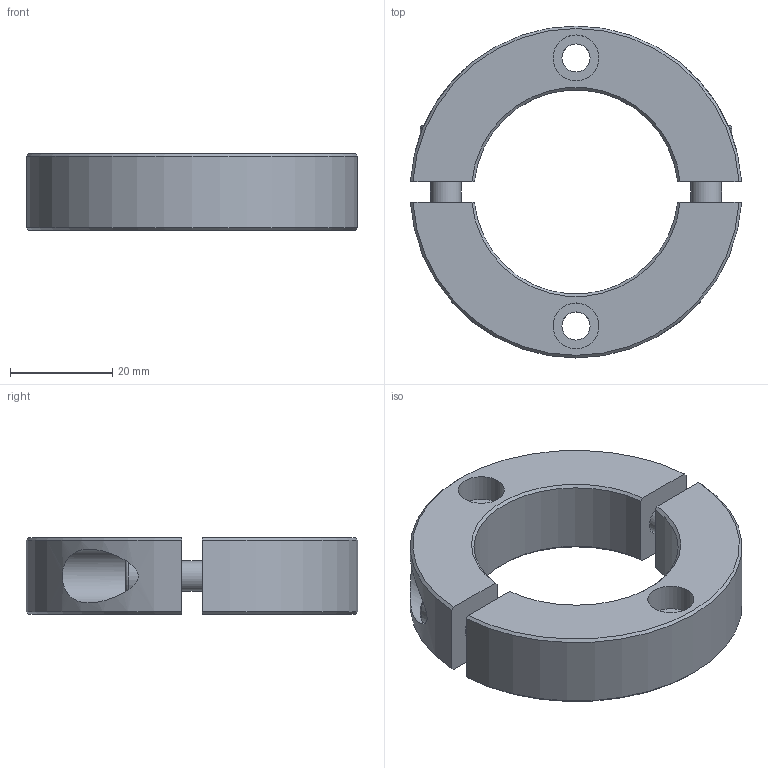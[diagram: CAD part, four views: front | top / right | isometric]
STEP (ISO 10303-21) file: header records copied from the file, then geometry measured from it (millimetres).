
FILE_DESCRIPTION( ( 'STEP AP203' ), '1' );
FILE_NAME( 'C:/Temp/Ganter_Step_05_03_2020/data/3_2/gn7072_2/Split Stainless Steel-Set collar GN 7072.2-65-B40-NI-B.stp', '2020-03-13T05:41:02', ( 'License CC BY-ND 4.0' ), ( 'CADENAS' ), ' ', 'PARTsolutions', ' ' );
FILE_SCHEMA( ( 'CONFIG_CONTROL_DESIGN' ) );
Length unit declared in the file: millimetre
Products named in the file (1): _Split Stainless Steel-Set collar GN 7072.2-65-B40-NI-B
Bounding box: 64.88 x 65 x 15 mm (x, y, z)
Volume: 26961.3 mm3; surface area: 11343.9 mm2
Topology: 1 solids, 1 shells, 56 faces, 131 edges, 89 vertices
Faces by surface type: plane 30, cylinder 16, cone 8, torus 2
Full cylindrical faces by diameter (mm): 5.5 x2, 6 x2, 6.4 x2, 9 x2, 10 x2, 10.5 x2
Entity records: 1720 total; most frequent: CARTESIAN_POINT 467, DIRECTION 246, ORIENTED_EDGE 220, EDGE_CURVE 110, AXIS2_PLACEMENT_3D 97, EDGE_LOOP 88, VERTEX_POINT 82, FACE_OUTER_BOUND 70
